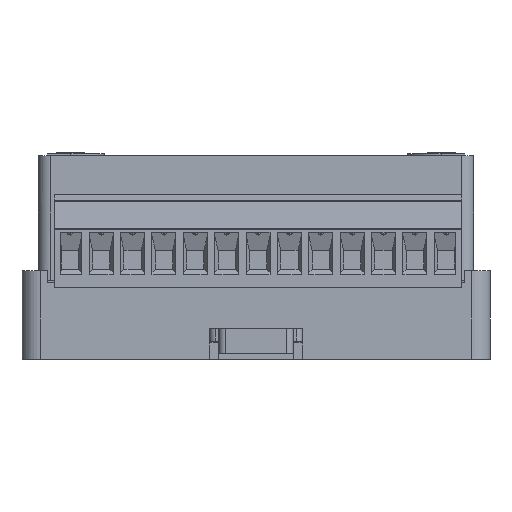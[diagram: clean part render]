
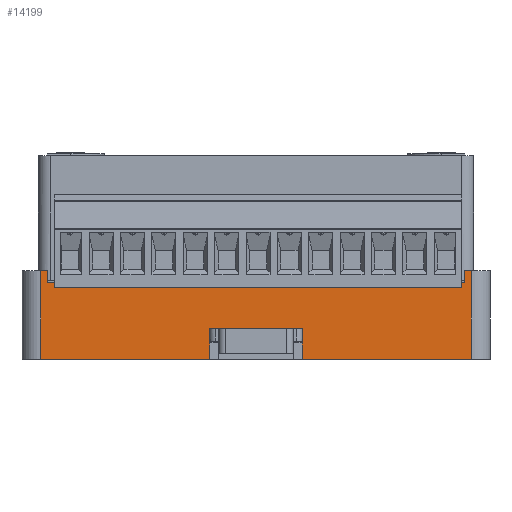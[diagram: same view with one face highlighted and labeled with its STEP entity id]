
A CAD part, front view. The second image highlights one B-rep face of the part: STEP entity #14199.
In plain terms, the highlighted planar face has unit normal (0, -1, 0).
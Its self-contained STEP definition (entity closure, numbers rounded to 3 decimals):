
#14199=ADVANCED_FACE('',(#78421),#78423,.F.);
#78421=FACE_BOUND('',#78422,.T.);
#78422=EDGE_LOOP('',(#125568,#125569,#125570,#125571,#125572,#125573,#125574,#125575,
#125576,#125577,#125578,#125579,#125580,#125581,#125582,#125583));
#78423=PLANE('',#78424);
#78424=AXIS2_PLACEMENT_3D('',#78425,#78426,#78427);
#78425=CARTESIAN_POINT('',(-37.9,-51.95,14.4));
#78426=DIRECTION('',(0.,1.,0.));
#78427=DIRECTION('',(0.,0.,1.));
#125568=ORIENTED_EDGE('',*,*,#174740,.F.);
#125569=ORIENTED_EDGE('',*,*,#174741,.F.);
#125570=ORIENTED_EDGE('',*,*,#174742,.T.);
#125571=ORIENTED_EDGE('',*,*,#174743,.T.);
#125572=ORIENTED_EDGE('',*,*,#174744,.T.);
#125573=ORIENTED_EDGE('',*,*,#174143,.F.);
#125574=ORIENTED_EDGE('',*,*,#174175,.T.);
#125575=ORIENTED_EDGE('',*,*,#174173,.F.);
#125576=ORIENTED_EDGE('',*,*,#174172,.T.);
#125577=ORIENTED_EDGE('',*,*,#174159,.F.);
#125578=ORIENTED_EDGE('',*,*,#174745,.T.);
#125579=ORIENTED_EDGE('',*,*,#174746,.T.);
#125580=ORIENTED_EDGE('',*,*,#174747,.F.);
#125581=ORIENTED_EDGE('',*,*,#174748,.F.);
#125582=ORIENTED_EDGE('',*,*,#174749,.F.);
#125583=ORIENTED_EDGE('',*,*,#174179,.F.);
#174143=EDGE_CURVE('',#196777,#196779,#196780,.T.);
#174159=EDGE_CURVE('',#196806,#196798,#196808,.T.);
#174172=EDGE_CURVE('',#196826,#196798,#196828,.T.);
#174173=EDGE_CURVE('',#196826,#196829,#196830,.T.);
#174175=EDGE_CURVE('',#196777,#196829,#196832,.T.);
#174179=EDGE_CURVE('',#196836,#196838,#196839,.T.);
#174740=EDGE_CURVE('',#197749,#196836,#197750,.T.);
#174741=EDGE_CURVE('',#197751,#197749,#197752,.T.);
#174742=EDGE_CURVE('',#197751,#197753,#197754,.T.);
#174743=EDGE_CURVE('',#197753,#197755,#197756,.T.);
#174744=EDGE_CURVE('',#197755,#196779,#197757,.T.);
#174745=EDGE_CURVE('',#196806,#197758,#197759,.T.);
#174746=EDGE_CURVE('',#197758,#197760,#197761,.T.);
#174747=EDGE_CURVE('',#197762,#197760,#197763,.T.);
#174748=EDGE_CURVE('',#197764,#197762,#197765,.T.);
#174749=EDGE_CURVE('',#196838,#197764,#197766,.T.);
#196777=VERTEX_POINT('',#248067);
#196779=VERTEX_POINT('',#248071);
#196780=LINE('',#248072,#248073);
#196798=VERTEX_POINT('',#248114);
#196806=VERTEX_POINT('',#248131);
#196808=LINE('',#248136,#248137);
#196826=VERTEX_POINT('',#248178);
#196828=LINE('',#248182,#248183);
#196829=VERTEX_POINT('',#248185);
#196830=LINE('',#248186,#248187);
#196832=LINE('',#248192,#248193);
#196836=VERTEX_POINT('',#248202);
#196838=VERTEX_POINT('',#248206);
#196839=LINE('',#248207,#248208);
#197749=VERTEX_POINT('',#254174);
#197750=LINE('',#254175,#254176);
#197751=VERTEX_POINT('',#254178);
#197752=LINE('',#254179,#254180);
#197753=VERTEX_POINT('',#254182);
#197754=LINE('',#254183,#254184);
#197755=VERTEX_POINT('',#254186);
#197756=LINE('',#254187,#254188);
#197757=LINE('',#254190,#254191);
#197758=VERTEX_POINT('',#254193);
#197759=LINE('',#254194,#254195);
#197760=VERTEX_POINT('',#254197);
#197761=LINE('',#254198,#254199);
#197762=VERTEX_POINT('',#254201);
#197763=LINE('',#254202,#254203);
#197764=VERTEX_POINT('',#254205);
#197765=LINE('',#254206,#254207);
#197766=LINE('',#254209,#254210);
#248067=CARTESIAN_POINT('',(33.85,-51.95,14.4));
#248071=CARTESIAN_POINT('',(34.9,-51.95,14.4));
#248072=CARTESIAN_POINT('',(33.85,-51.95,14.4));
#248073=VECTOR('',#248074,1.);
#248074=DIRECTION('',(1.,0.,0.));
#248114=CARTESIAN_POINT('',(-33.85,-51.95,14.4));
#248131=CARTESIAN_POINT('',(-34.9,-51.95,14.4));
#248136=CARTESIAN_POINT('',(-34.9,-51.95,14.4));
#248137=VECTOR('',#248138,1.);
#248138=DIRECTION('',(1.,0.,0.));
#248178=CARTESIAN_POINT('',(-33.85,-51.95,12.4));
#248182=CARTESIAN_POINT('',(-33.85,-51.95,12.4));
#248183=VECTOR('',#248184,1.);
#248184=DIRECTION('',(0.,0.,1.));
#248185=CARTESIAN_POINT('',(33.85,-51.95,12.4));
#248186=CARTESIAN_POINT('',(-33.85,-51.95,12.4));
#248187=VECTOR('',#248188,1.);
#248188=DIRECTION('',(1.,0.,0.));
#248192=CARTESIAN_POINT('',(33.85,-51.95,14.4));
#248193=VECTOR('',#248194,1.);
#248194=DIRECTION('',(0.,0.,-1.));
#248202=CARTESIAN_POINT('',(4.,-51.95,5.));
#248206=CARTESIAN_POINT('',(-4.,-51.95,5.));
#248207=CARTESIAN_POINT('',(4.,-51.95,5.));
#248208=VECTOR('',#248209,1.);
#248209=DIRECTION('',(-1.,0.,0.));
#254174=CARTESIAN_POINT('',(6.936,-51.95,5.));
#254175=CARTESIAN_POINT('',(6.936,-51.95,5.));
#254176=VECTOR('',#254177,1.);
#254177=DIRECTION('',(-1.,0.,0.));
#254178=CARTESIAN_POINT('',(7.5,-51.95,5.));
#254179=CARTESIAN_POINT('',(7.5,-51.95,5.));
#254180=VECTOR('',#254181,1.);
#254181=DIRECTION('',(-1.,0.,0.));
#254182=CARTESIAN_POINT('',(7.5,-51.95,0.));
#254183=CARTESIAN_POINT('',(7.5,-51.95,5.));
#254184=VECTOR('',#254185,1.);
#254185=DIRECTION('',(0.,0.,-1.));
#254186=CARTESIAN_POINT('',(34.9,-51.95,0.));
#254187=CARTESIAN_POINT('',(7.5,-51.95,0.));
#254188=VECTOR('',#254189,1.);
#254189=DIRECTION('',(1.,0.,0.));
#254190=CARTESIAN_POINT('',(34.9,-51.95,0.));
#254191=VECTOR('',#254192,1.);
#254192=DIRECTION('',(0.,0.,1.));
#254193=CARTESIAN_POINT('',(-34.9,-51.95,0.));
#254194=CARTESIAN_POINT('',(-34.9,-51.95,14.4));
#254195=VECTOR('',#254196,1.);
#254196=DIRECTION('',(0.,0.,-1.));
#254197=CARTESIAN_POINT('',(-7.5,-51.95,0.));
#254198=CARTESIAN_POINT('',(-34.9,-51.95,0.));
#254199=VECTOR('',#254200,1.);
#254200=DIRECTION('',(1.,0.,0.));
#254201=CARTESIAN_POINT('',(-7.5,-51.95,5.));
#254202=CARTESIAN_POINT('',(-7.5,-51.95,5.));
#254203=VECTOR('',#254204,1.);
#254204=DIRECTION('',(0.,0.,-1.));
#254205=CARTESIAN_POINT('',(-6.936,-51.95,5.));
#254206=CARTESIAN_POINT('',(-6.936,-51.95,5.));
#254207=VECTOR('',#254208,1.);
#254208=DIRECTION('',(-1.,0.,0.));
#254209=CARTESIAN_POINT('',(-4.,-51.95,5.));
#254210=VECTOR('',#254211,1.);
#254211=DIRECTION('',(-1.,0.,0.));
